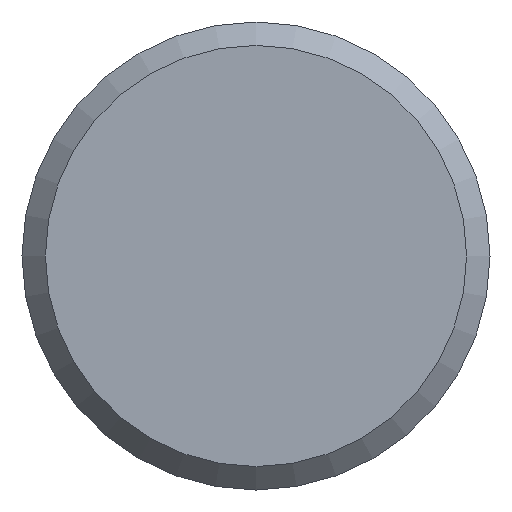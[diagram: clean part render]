
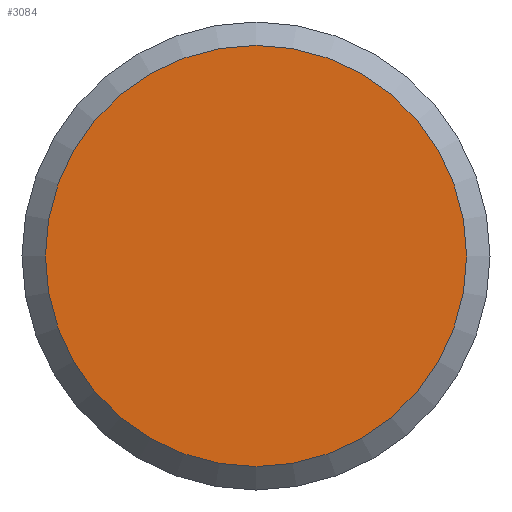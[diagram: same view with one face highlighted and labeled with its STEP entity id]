
A CAD part, left-side view. The second image highlights one B-rep face of the part: STEP entity #3084.
In plain terms, the highlighted planar face has unit normal (-1, 0, 0).
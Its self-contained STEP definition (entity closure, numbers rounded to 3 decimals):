
#1129=PLANE('',#2854);
#1171=ORIENTED_EDGE('',*,*,#1585,.F.);
#1377=CIRCLE('',#2853,4.5);
#1481=VERTEX_POINT('',#2537);
#1585=EDGE_CURVE('',#1481,#1481,#1377,.T.);
#1691=EDGE_LOOP('',(#1171));
#1899=FACE_BOUND('',#1691,.T.);
#2111=DIRECTION('',(1.,0.,0.));
#2112=DIRECTION('',(0.,-4.5,0.));
#2113=DIRECTION('',(-1.,0.,0.));
#2114=DIRECTION('',(0.,1.,0.));
#2537=CARTESIAN_POINT('',(0.,-4.5,0.));
#2538=CARTESIAN_POINT('',(0.,0.,0.));
#2539=CARTESIAN_POINT('',(0.,0.,0.));
#2853=AXIS2_PLACEMENT_3D('',#2538,#2111,#2112);
#2854=AXIS2_PLACEMENT_3D('',#2539,#2113,#2114);
#3084=ADVANCED_FACE('',(#1899),#1129,.T.);
